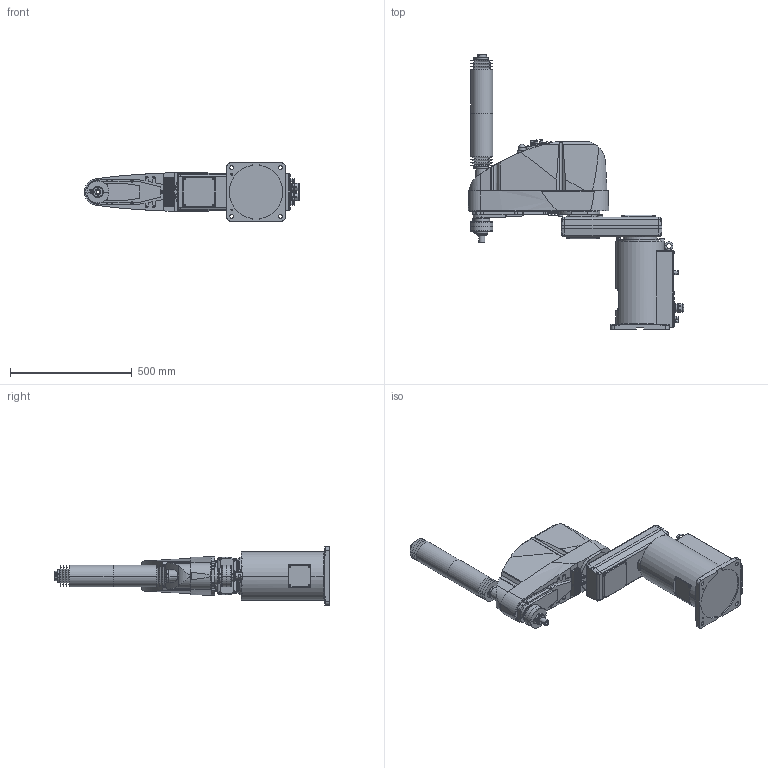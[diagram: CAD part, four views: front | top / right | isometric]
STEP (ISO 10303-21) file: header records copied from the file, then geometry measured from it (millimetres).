
FILE_DESCRIPTION( ( '' ), '1' );
FILE_NAME( '//expscmdclustefs.cadenas.external/client_exchange/iodir/jobs/output/wkb51511246_no0/STEP/G10_654C_2_03.stp', '2012-11-22T15:09:54', ( '' ), ( '' ), ' ', ' ', ' ' );
FILE_SCHEMA( ( 'CONFIG_CONTROL_DESIGN' ) );
Length unit declared in the file: millimetre
Products named in the file (8): 1; 2; 3; 4; 5; 6; 7; 8
Bounding box: 884.5 x 1129.5 x 240 mm (x, y, z)
Volume: 40895737 mm3; surface area: 1701493 mm2
Topology: 8 solids, 9 shells, 2152 faces, 5280 edges, 3423 vertices
Faces by surface type: plane 1174, cylinder 694, cone 238, torus 45, sphere 1
Entity records: 66101 total; most frequent: CARTESIAN_POINT 13558, DIRECTION 11195, ORIENTED_EDGE 10552, EDGE_CURVE 5276, AXIS2_PLACEMENT_3D 3946, VERTEX_POINT 3423, LINE 3303, VECTOR 3303
